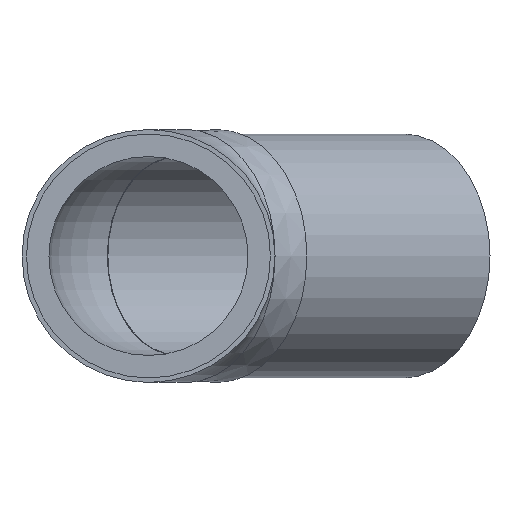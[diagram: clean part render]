
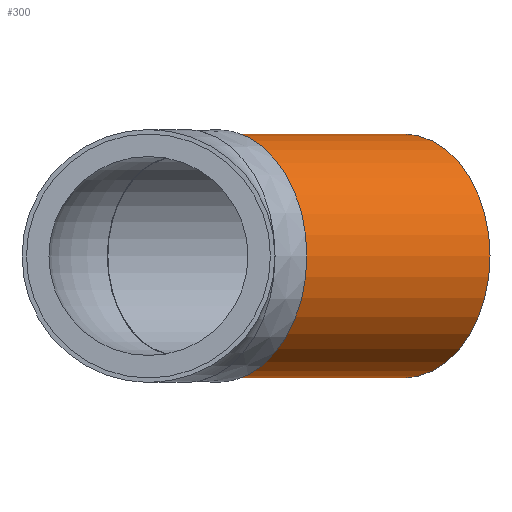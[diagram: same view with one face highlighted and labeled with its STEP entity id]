
A CAD part, front view. The second image highlights one B-rep face of the part: STEP entity #300.
In plain terms, the highlighted cylindrical face has radius 25 mm (diameter 50 mm), a full revolution.
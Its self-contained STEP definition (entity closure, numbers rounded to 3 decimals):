
#259=CARTESIAN_POINT('',(-3.536,31.82,0.));
#260=VERTEX_POINT('',#259);
#261=CARTESIAN_POINT('',(14.142,14.142,0.));
#262=DIRECTION('',(0.707,0.707,0.));
#263=DIRECTION('',(-0.707,0.707,0.));
#264=AXIS2_PLACEMENT_3D('',#261,#262,#263);
#265=CIRCLE('',#264,25.);
#266=EDGE_CURVE('',#260,#260,#265,.T.);
#276=CARTESIAN_POINT('',(34.648,70.004,0.));
#277=VERTEX_POINT('',#276);
#278=CARTESIAN_POINT('',(52.326,52.326,0.));
#279=DIRECTION('',(0.707,0.707,0.));
#280=DIRECTION('',(-0.707,0.707,0.));
#281=AXIS2_PLACEMENT_3D('',#278,#279,#280);
#282=CIRCLE('',#281,25.);
#283=EDGE_CURVE('',#277,#277,#282,.T.);
#284=ORIENTED_EDGE('',*,*,#283,.F.);
#285=CARTESIAN_POINT('',(15.556,50.912,0.));
#286=DIRECTION('',(0.707,0.707,0.));
#287=VECTOR('',#286,25.);
#288=LINE('',#285,#287);
#289=EDGE_CURVE('',#260,#277,#288,.T.);
#290=ORIENTED_EDGE('',*,*,#289,.F.);
#291=ORIENTED_EDGE('',*,*,#266,.T.);
#292=ORIENTED_EDGE('',*,*,#289,.T.);
#293=EDGE_LOOP('',(#284,#290,#291,#292));
#294=FACE_OUTER_BOUND('',#293,.T.);
#295=CARTESIAN_POINT('',(33.234,33.234,0.));
#296=DIRECTION('',(0.707,0.707,0.));
#297=DIRECTION('',(-0.707,0.707,0.));
#298=AXIS2_PLACEMENT_3D('',#295,#296,#297);
#299=CYLINDRICAL_SURFACE('',#298,25.);
#300=ADVANCED_FACE('',(#294),#299,.T.);
